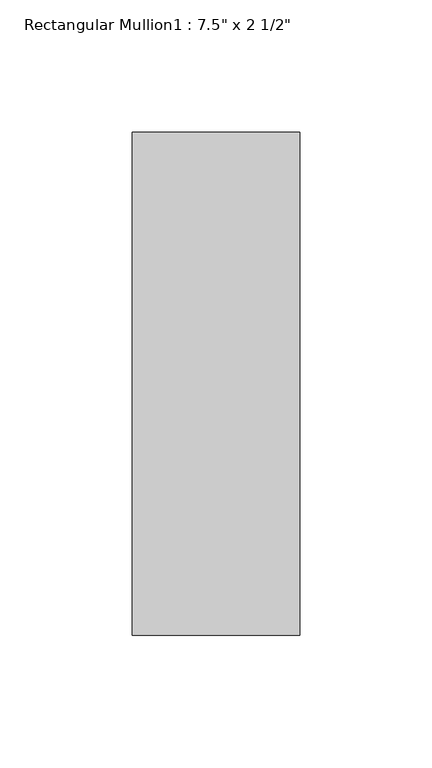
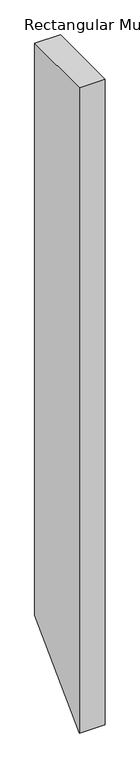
"""IFC4 building model written with IfcOpenShell, lengths in millimetres: member geometry."""

from ifc_helpers import new_model, si_unit, frame, origin, place, context, project, spatial, polyline, outline, extrude, source, transform, mapped, element, save


def member_8d406e2e(model_context):
    return source(origin(), model_context, "Body", "SweptSolid", [
        extrude(outline(polyline([(-25.4, 0.0), (165.1, 0.0), (165.1, -1488.1387778), (-25.4, -1678.6387778), (-25.4, 0.0)])), frame((-31.75, 0.0, 0.0), z_axis=(1.0, 0.0, 0.0), x_axis=(0.0, 1.0, 0.0)), (0.0, 0.0, 1.0), 63.5),
    ])


if __name__ == "__main__":
    model = new_model("IFC4")
    model_context = context("Model", 3, world=origin())
    ifc_project = project(units=[si_unit("LENGTHUNIT", "METRE", prefix="MILLI")], contexts=[model_context])
    site = spatial("IfcSite", under=ifc_project)
    building = spatial("IfcBuilding", under=site)
    placement = place(None, origin())
    member_shape = member_8d406e2e(model_context)
    element("IfcMember", 1, ObjectType="Rectangular Mullion1 : 7.5\" x 2 1/2\"", at=placement, inside=building, context=model_context, shape_type="MappedRepresentation", body=[
        mapped(member_shape, transform((0.0, 0.0, 0.0), x_axis=(1.0, 0.0, 0.0), y_axis=(0.0, 1.0, 0.0), z_axis=(0.0, 0.0, 1.0))),
    ])
    save(model, "model.ifc")
